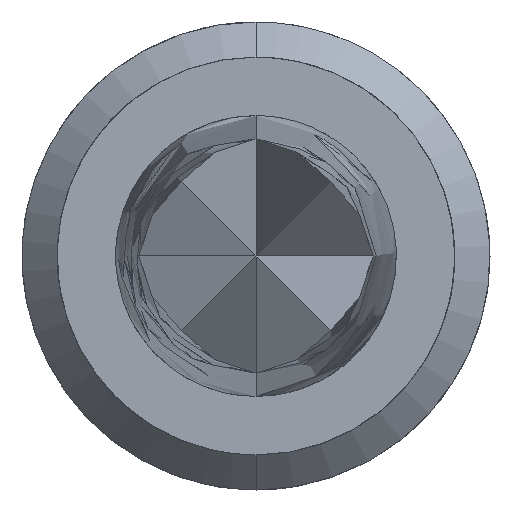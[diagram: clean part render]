
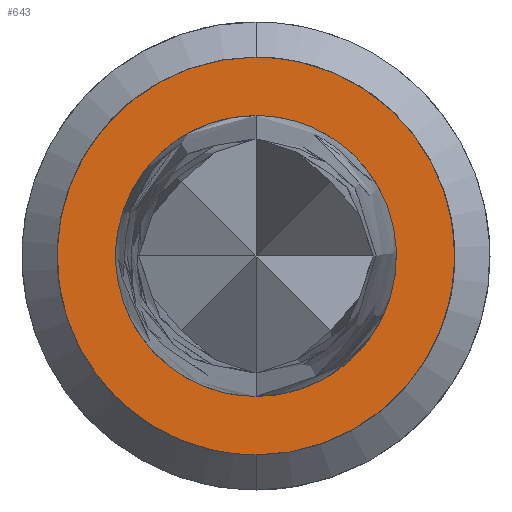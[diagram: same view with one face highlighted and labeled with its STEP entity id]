
A CAD part, left-side view. The second image highlights one B-rep face of the part: STEP entity #643.
In plain terms, the highlighted free-form (B-spline) face has degree [1, 1] with [2, 2] control points.
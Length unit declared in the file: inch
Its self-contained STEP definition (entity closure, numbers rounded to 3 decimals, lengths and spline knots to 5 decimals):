
#30 = CARTESIAN_POINT ( 'NONE',  ( 0.33, 0.017, -0.00451 ) ) ;
#32 = CARTESIAN_POINT ( 'NONE',  ( 0.33, 0., -0.012 ) ) ;
#45 = CARTESIAN_POINT ( 'NONE',  ( 0.33, 0.00318, 0.012 ) ) ;
#51 = CARTESIAN_POINT ( 'NONE',  ( 0.33, -0.012, -0.00318 ) ) ;
#73 = CARTESIAN_POINT ( 'NONE',  ( 0.33, -0.01074, 0.00623 ) ) ;
#120 = CARTESIAN_POINT ( 'NONE',  ( 0.33, 0.012, -0.00318 ) ) ;
#124 = FACE_OUTER_BOUND ( 'NONE', #363, .T. ) ;
#141 = CARTESIAN_POINT ( 'NONE',  ( 0.33, 0., 0.017 ) ) ;
#149 = CARTESIAN_POINT ( 'NONE',  ( 0.33, 0., 0.012 ) ) ;
#162 = CARTESIAN_POINT ( 'NONE',  ( 0.33, -0.00451, -0.017 ) ) ;
#193 = CARTESIAN_POINT ( 'NONE',  ( 0.33, 0., -0.017 ) ) ;
#203 = CARTESIAN_POINT ( 'NONE',  ( 0.33, 0.01074, 0.00623 ) ) ;
#230 = CARTESIAN_POINT ( 'NONE',  ( 0.33, -0.017, -0.00451 ) ) ;
#234 = CARTESIAN_POINT ( 'NONE',  ( 0.33, 0., 0.012 ) ) ;
#284 = CARTESIAN_POINT ( 'NONE',  ( 0.33, 0., 0.017 ) ) ;
#299 = CARTESIAN_POINT ( 'NONE',  ( 0.33, -0.01521, -0.00883 ) ) ;
#317 = CARTESIAN_POINT ( 'NONE',  ( 0.33, -0.00318, -0.012 ) ) ;
#352 = CARTESIAN_POINT ( 'NONE',  ( 0.33, 0.00883, -0.01521 ) ) ;
#362 = EDGE_CURVE ( 'NONE', #801, #889, #450, .T. ) ;
#363 = EDGE_LOOP ( 'NONE', ( #915, #456 ) ) ;
#379 = CARTESIAN_POINT ( 'NONE',  ( 0.33, -0.012, 0.00318 ) ) ;
#389 = CARTESIAN_POINT ( 'NONE',  ( 0.33, -0.01521, 0.00883 ) ) ;
#403 = CARTESIAN_POINT ( 'NONE',  ( 0.33, 0., -0.017 ) ) ;
#431 = CARTESIAN_POINT ( 'NONE',  ( 0.33, 0.01521, 0.00883 ) ) ;
#450 = B_SPLINE_CURVE_WITH_KNOTS ( 'NONE', 3,
 ( #403, #162, #537, #299, #230, #844, #389, #609, #706, #141 ),
 .UNSPECIFIED., .F., .F.,
 ( 4, 2, 2, 2, 4 ),
 ( 0., 0.7854, 1.5708, 2.35619, 3.14159 ),
 .UNSPECIFIED. ) ;
#456 = ORIENTED_EDGE ( 'NONE', *, *, #362, .T. ) ;
#460 = CARTESIAN_POINT ( 'NONE',  ( 0.33, 0., -0.012 ) ) ;
#468 = CARTESIAN_POINT ( 'NONE',  ( 0.33, -0.00318, 0.012 ) ) ;
#505 = CARTESIAN_POINT ( 'NONE',  ( 0.33, 0.017, 0.00451 ) ) ;
#515 = CARTESIAN_POINT ( 'NONE',  ( 0.33, 0.00623, 0.01074 ) ) ;
#517 = VERTEX_POINT ( 'NONE', #32 ) ;
#526 = B_SPLINE_CURVE_WITH_KNOTS ( 'NONE', 3,
 ( #149, #468, #532, #73, #379, #51, #834, #1010, #317, #460 ),
 .UNSPECIFIED., .F., .F.,
 ( 4, 2, 2, 2, 4 ),
 ( 0., 0.7854, 1.5708, 2.35619, 3.14159 ),
 .UNSPECIFIED. ) ;
#532 = CARTESIAN_POINT ( 'NONE',  ( 0.33, -0.00623, 0.01074 ) ) ;
#537 = CARTESIAN_POINT ( 'NONE',  ( 0.33, -0.00883, -0.01521 ) ) ;
#545 = ORIENTED_EDGE ( 'NONE', *, *, #717, .T. ) ;
#581 = CARTESIAN_POINT ( 'NONE',  ( 0.33, -0.0172, 0.0172 ) ) ;
#590 = CARTESIAN_POINT ( 'NONE',  ( 0.33, 0.01074, -0.00623 ) ) ;
#609 = CARTESIAN_POINT ( 'NONE',  ( 0.33, -0.00883, 0.01521 ) ) ;
#613 = ORIENTED_EDGE ( 'NONE', *, *, #884, .T. ) ;
#643 = ADVANCED_FACE ( 'NONE', ( #906, #124 ), #823, .T. ) ;
#652 = CARTESIAN_POINT ( 'NONE',  ( 0.33, -0.0172, -0.0172 ) ) ;
#662 = CARTESIAN_POINT ( 'NONE',  ( 0.33, 0.00623, -0.01074 ) ) ;
#675 = EDGE_CURVE ( 'NONE', #889, #801, #898, .T. ) ;
#677 = CARTESIAN_POINT ( 'NONE',  ( 0.33, 0., 0.017 ) ) ;
#686 = EDGE_LOOP ( 'NONE', ( #545, #613 ) ) ;
#706 = CARTESIAN_POINT ( 'NONE',  ( 0.33, -0.00451, 0.017 ) ) ;
#717 = EDGE_CURVE ( 'NONE', #517, #817, #764, .T. ) ;
#741 = CARTESIAN_POINT ( 'NONE',  ( 0.33, 0.00451, 0.017 ) ) ;
#743 = CARTESIAN_POINT ( 'NONE',  ( 0.33, 0.0172, -0.0172 ) ) ;
#750 = CARTESIAN_POINT ( 'NONE',  ( 0.33, 0., -0.012 ) ) ;
#764 = B_SPLINE_CURVE_WITH_KNOTS ( 'NONE', 3,
 ( #750, #978, #662, #590, #120, #894, #203, #515, #45, #813 ),
 .UNSPECIFIED., .F., .F.,
 ( 4, 2, 2, 2, 4 ),
 ( 0., 0.7854, 1.5708, 2.35619, 3.14159 ),
 .UNSPECIFIED. ) ;
#801 = VERTEX_POINT ( 'NONE', #836 ) ;
#802 = CARTESIAN_POINT ( 'NONE',  ( 0.33, 0.00451, -0.017 ) ) ;
#813 = CARTESIAN_POINT ( 'NONE',  ( 0.33, 0., 0.012 ) ) ;
#817 = VERTEX_POINT ( 'NONE', #234 ) ;
#818 = CARTESIAN_POINT ( 'NONE',  ( 0.33, 0.01521, -0.00883 ) ) ;
#823 = B_SPLINE_SURFACE_WITH_KNOTS ( 'NONE', 1, 1, ( 
 ( #652, #743 ),
 ( #581, #974 ) ),
 .UNSPECIFIED., .F., .F., .F.,
 ( 2, 2 ),
 ( 2, 2 ),
 ( 0., 1. ),
 ( 0., 1. ),
 .UNSPECIFIED. ) ;
#834 = CARTESIAN_POINT ( 'NONE',  ( 0.33, -0.01074, -0.00623 ) ) ;
#836 = CARTESIAN_POINT ( 'NONE',  ( 0.33, 0., -0.017 ) ) ;
#844 = CARTESIAN_POINT ( 'NONE',  ( 0.33, -0.017, 0.00451 ) ) ;
#884 = EDGE_CURVE ( 'NONE', #817, #517, #526, .T. ) ;
#889 = VERTEX_POINT ( 'NONE', #677 ) ;
#894 = CARTESIAN_POINT ( 'NONE',  ( 0.33, 0.012, 0.00318 ) ) ;
#898 = B_SPLINE_CURVE_WITH_KNOTS ( 'NONE', 3,
 ( #284, #741, #968, #431, #505, #30, #818, #352, #802, #193 ),
 .UNSPECIFIED., .F., .F.,
 ( 4, 2, 2, 2, 4 ),
 ( 0., 0.7854, 1.5708, 2.35619, 3.14159 ),
 .UNSPECIFIED. ) ;
#906 = FACE_BOUND ( 'NONE', #686, .T. ) ;
#915 = ORIENTED_EDGE ( 'NONE', *, *, #675, .T. ) ;
#968 = CARTESIAN_POINT ( 'NONE',  ( 0.33, 0.00883, 0.01521 ) ) ;
#974 = CARTESIAN_POINT ( 'NONE',  ( 0.33, 0.0172, 0.0172 ) ) ;
#978 = CARTESIAN_POINT ( 'NONE',  ( 0.33, 0.00318, -0.012 ) ) ;
#1010 = CARTESIAN_POINT ( 'NONE',  ( 0.33, -0.00623, -0.01074 ) ) ;
